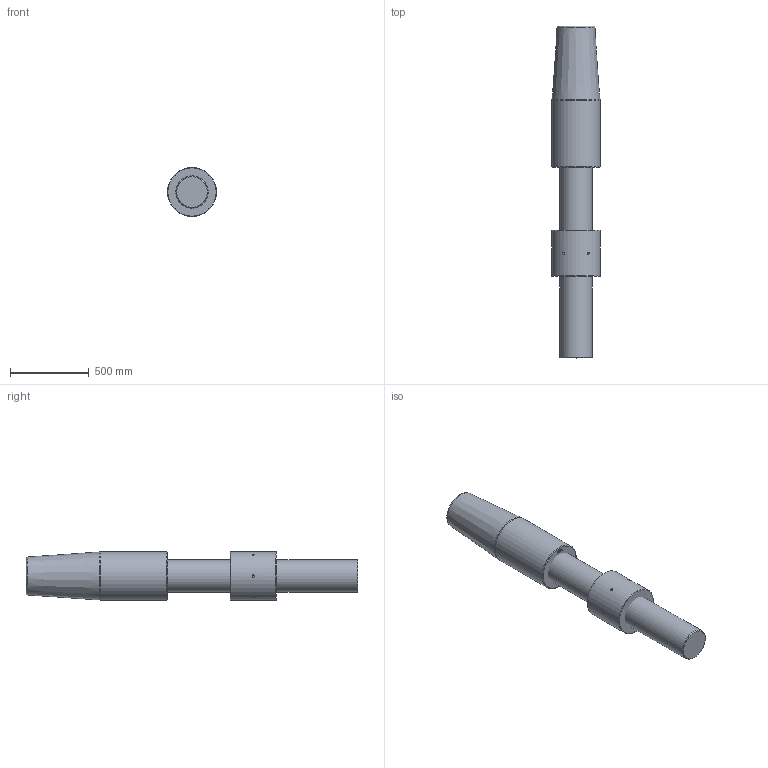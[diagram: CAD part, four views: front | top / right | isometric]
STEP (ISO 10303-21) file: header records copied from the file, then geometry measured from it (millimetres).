
FILE_DESCRIPTION(/* description */ (''),/* implementation_level */ '2;1');
FILE_NAME(/* name */ 'C:\Users\ranca\Desktop\CYM\ARRANGEMENT\CYM104 52 061 0.stp',/* time_stamp */ '2021-04-23T20:34:56+02:00',/* author */ ('ranca'),/* organization */ (''),/* preprocessor_version */ 'ST-DEVELOPER v16.13',/* originating_system */ 'Autodesk Inventor 2018',/* authorisation */ '');
FILE_SCHEMA (('AUTOMOTIVE_DESIGN { 1 0 10303 214 3 1 1 }'));
Length unit declared in the file: millimetre
Products named in the file (4): CYM104-52-061-0; CYM012-52-061-0_ROD; CYC104 52 065 0_CYL SOK_RH; CYM104-41-051-0
Assembly tree (3 placements, depth 2):
  CYM104-52-061-0
    CYM012-52-061-0_ROD
    CYC104 52 065 0_CYL SOK_RH
    CYM104-41-051-0
Bounding box: 310 x 2108 x 310 mm (x, y, z)
Volume: 130181821.5 mm3; surface area: 2390875.4 mm2
Topology: 3 solids, 3 shells, 486 faces, 1297 edges, 862 vertices
Faces by surface type: plane 265, bspline 199, cone 11, cylinder 9, torus 2
Full cylindrical faces by diameter (mm): 15 x6, 205 x1, 305 x1, 310 x1
Entity records: 16186 total; most frequent: CARTESIAN_POINT 5429, ORIENTED_EDGE 2536, DIRECTION 1469, EDGE_CURVE 1268, VERTEX_POINT 856, LINE 837, VECTOR 837, EDGE_LOOP 554
